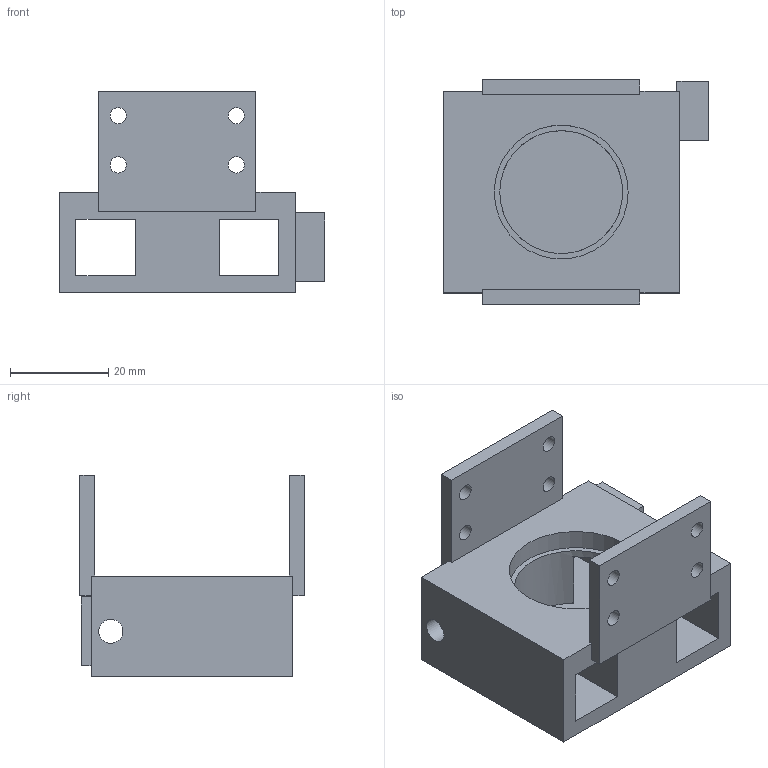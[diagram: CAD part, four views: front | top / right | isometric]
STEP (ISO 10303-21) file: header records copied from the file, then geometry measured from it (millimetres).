
FILE_DESCRIPTION(('Open CASCADE Model'),'2;1');
FILE_NAME('Open CASCADE Shape Model','2026-10-15T20:06:57',('Author'),( 'Open CASCADE'),'Open CASCADE STEP processor 7.9','Open CASCADE 7.9' ,'Unknown');
FILE_SCHEMA(('AUTOMOTIVE_DESIGN { 1 0 10303 214 1 1 1 1 }'));
Length unit declared in the file: millimetre
Products named in the file (1): Open CASCADE STEP translator 7.9 6
Bounding box: 54 x 45.6 x 41 mm (x, y, z)
Volume: 26125.6 mm3; surface area: 15228.6 mm2
Topology: 1 solids, 1 shells, 49 faces, 149 edges, 99 vertices
Faces by surface type: plane 34, cylinder 15
Full cylindrical faces by diameter (mm): 3 x2, 3.3 x8, 4.9 x3, 25 x1, 27.2 x1
Entity records: 3705 total; most frequent: CARTESIAN_POINT 851, DIRECTION 478, LINE 303, VECTOR 303, ORIENTED_EDGE 298, PCURVE 298, DEFINITIONAL_REPRESENTATION 298, EDGE_CURVE 149
